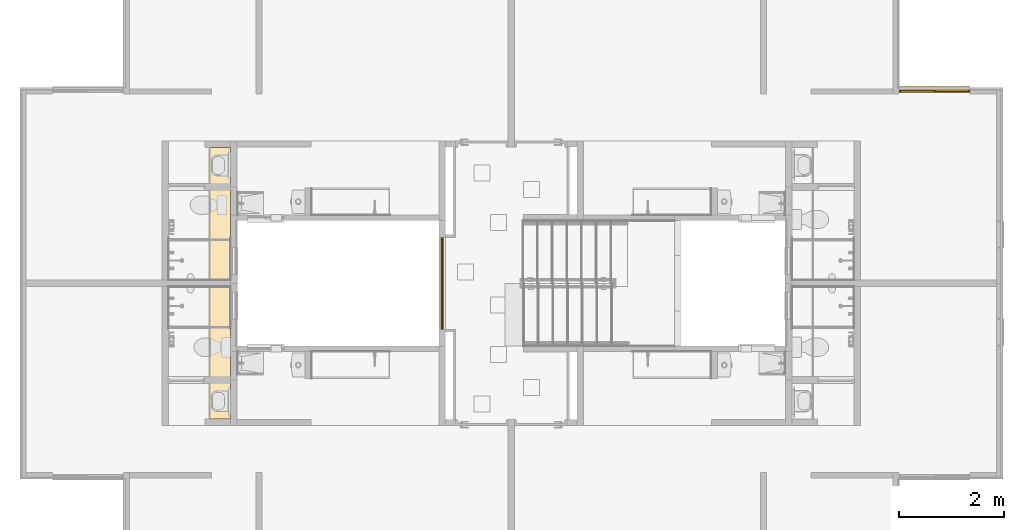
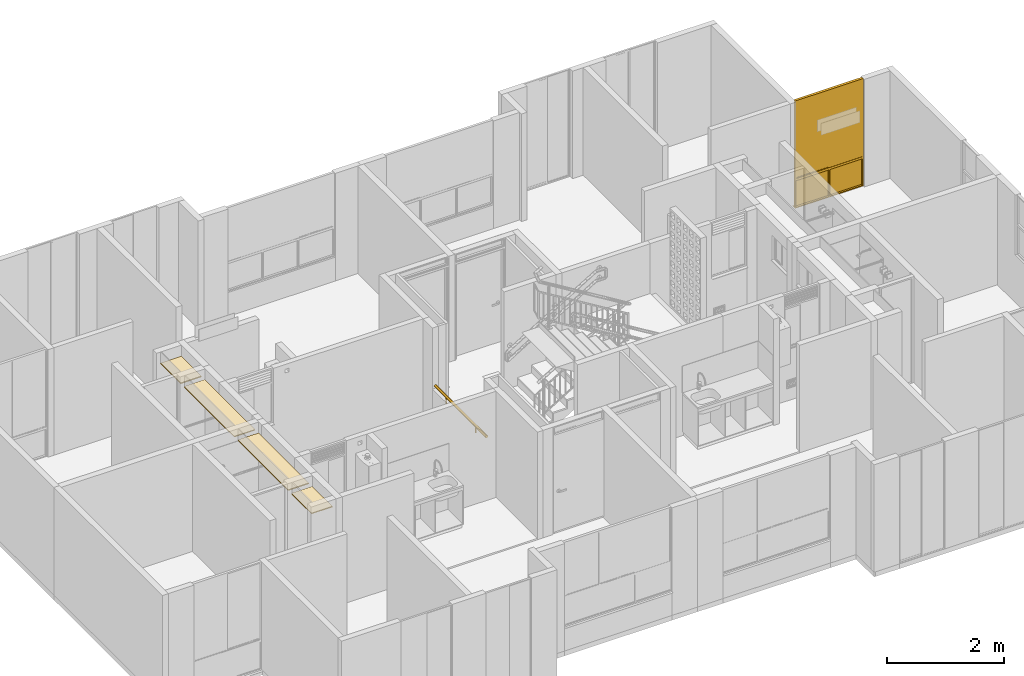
# One storey, part 36 of 48: 2 coverings, 1 railing, 1 window.
"""IFC4 building model written with IfcOpenShell, lengths in metres."""

from ifc_helpers import new_model, entity, si_unit, converted_unit, derived_unit, direction, frame, origin, place, context, subcontext, project, spatial, arc, indexed_curve, outline, extrude, polygons, source, transform, mapped, material, constituent, constituent_set, type_object, type_shapes, element, save


model = new_model("IFC4")

# Units and contexts
model_context = context("Model", 3, precision=1e-05, world=origin(), true_north=direction((6.123031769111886e-17, 1.0)))
body_context = subcontext(model_context, "Body", "Model", "MODEL_VIEW")
ifc_project = project(units=[si_unit("LENGTHUNIT", "METRE"), si_unit("AREAUNIT", "SQUARE_METRE"), si_unit("VOLUMEUNIT", "CUBIC_METRE"), converted_unit("PLANEANGLEUNIT", "DEGREE", entity("IfcRatioMeasure", 0.017453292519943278), si_unit("PLANEANGLEUNIT", "RADIAN"), dimensions=[0, 0, 0, 0, 0, 0, 0]), si_unit("MASSUNIT", "GRAM", prefix="KILO"), derived_unit("MASSDENSITYUNIT", [(si_unit("MASSUNIT", "GRAM", prefix="KILO"), 1), (si_unit("LENGTHUNIT", "METRE"), -3)]), derived_unit("IONCONCENTRATIONUNIT", [(si_unit("MASSUNIT", "GRAM", prefix="KILO"), 1), (si_unit("LENGTHUNIT", "METRE"), -3)]), derived_unit("MOMENTOFINERTIAUNIT", [(si_unit("LENGTHUNIT", "METRE"), 4)]), si_unit("TIMEUNIT", "SECOND"), si_unit("FREQUENCYUNIT", "HERTZ"), si_unit("THERMODYNAMICTEMPERATUREUNIT", "DEGREE_CELSIUS"), derived_unit("THERMALTRANSMITTANCEUNIT", [(si_unit("MASSUNIT", "GRAM", prefix="KILO"), 1), (si_unit("THERMODYNAMICTEMPERATUREUNIT", "KELVIN"), -1), (si_unit("TIMEUNIT", "SECOND"), -3)]), derived_unit("THERMALCONDUCTANCEUNIT", [(si_unit("MASSUNIT", "GRAM", prefix="KILO"), 1), (si_unit("THERMODYNAMICTEMPERATUREUNIT", "KELVIN"), -1), (si_unit("TIMEUNIT", "SECOND"), -3), (si_unit("LENGTHUNIT", "METRE"), 1)]), derived_unit("VOLUMETRICFLOWRATEUNIT", [(si_unit("LENGTHUNIT", "METRE"), 3), (si_unit("TIMEUNIT", "SECOND"), -1)]), derived_unit("MASSFLOWRATEUNIT", [(si_unit("MASSUNIT", "GRAM", prefix="KILO"), 1), (si_unit("TIMEUNIT", "SECOND"), -1)]), derived_unit("ROTATIONALFREQUENCYUNIT", [(si_unit("TIMEUNIT", "SECOND"), -1)]), si_unit("ELECTRICCURRENTUNIT", "AMPERE"), si_unit("ELECTRICVOLTAGEUNIT", "VOLT"), si_unit("POWERUNIT", "WATT"), si_unit("FORCEUNIT", "NEWTON", prefix="KILO"), si_unit("ILLUMINANCEUNIT", "LUX"), si_unit("LUMINOUSFLUXUNIT", "LUMEN"), si_unit("LUMINOUSINTENSITYUNIT", "CANDELA"), derived_unit("USERDEFINED", [(si_unit("MASSUNIT", "GRAM", prefix="KILO"), -1), (si_unit("LENGTHUNIT", "METRE"), -2), (si_unit("TIMEUNIT", "SECOND"), 3), (si_unit("LUMINOUSFLUXUNIT", "LUMEN"), 1)]), derived_unit("USERDEFINED", [(si_unit("MASSUNIT", "GRAM", prefix="KILO"), 1), (si_unit("TIMEUNIT", "SECOND"), -3), (si_unit("LENGTHUNIT", "METRE"), 3), (si_unit("ELECTRICCURRENTUNIT", "AMPERE"), -2)]), derived_unit("SOUNDPOWERUNIT", [(si_unit("MASSUNIT", "GRAM", prefix="KILO"), 1), (si_unit("TIMEUNIT", "SECOND"), -3), (si_unit("LENGTHUNIT", "METRE"), 2)]), derived_unit("SOUNDPRESSUREUNIT", [(si_unit("MASSUNIT", "GRAM", prefix="KILO"), 1), (si_unit("LENGTHUNIT", "METRE"), -1), (si_unit("TIMEUNIT", "SECOND"), -2)]), derived_unit("LINEARVELOCITYUNIT", [(si_unit("LENGTHUNIT", "METRE"), 1), (si_unit("TIMEUNIT", "SECOND"), -1)]), si_unit("PRESSUREUNIT", "PASCAL"), derived_unit("USERDEFINED", [(si_unit("MASSUNIT", "GRAM", prefix="KILO"), 1), (si_unit("LENGTHUNIT", "METRE"), -2), (si_unit("TIMEUNIT", "SECOND"), -2)]), derived_unit("LINEARFORCEUNIT", [(si_unit("MASSUNIT", "GRAM", prefix="KILO"), 1), (si_unit("TIMEUNIT", "SECOND"), -2)]), derived_unit("PLANARFORCEUNIT", [(si_unit("MASSUNIT", "GRAM", prefix="KILO"), 1), (si_unit("LENGTHUNIT", "METRE"), -1), (si_unit("TIMEUNIT", "SECOND"), -2)]), derived_unit("SPECIFICHEATCAPACITYUNIT", [(si_unit("THERMODYNAMICTEMPERATUREUNIT", "KELVIN"), -1), (si_unit("LENGTHUNIT", "METRE"), 2), (si_unit("TIMEUNIT", "SECOND"), -2)]), derived_unit("HEATINGVALUEUNIT", [(si_unit("LENGTHUNIT", "METRE"), 2), (si_unit("TIMEUNIT", "SECOND"), -2)]), derived_unit("VAPORPERMEABILITYUNIT", [(si_unit("LENGTHUNIT", "METRE"), -1), (si_unit("TIMEUNIT", "SECOND"), 1)]), derived_unit("DYNAMICVISCOSITYUNIT", [(si_unit("MASSUNIT", "GRAM", prefix="KILO"), 1), (si_unit("TIMEUNIT", "SECOND"), -1), (si_unit("LENGTHUNIT", "METRE"), -1)]), derived_unit("THERMALEXPANSIONCOEFFICIENTUNIT", [(si_unit("THERMODYNAMICTEMPERATUREUNIT", "KELVIN"), -1)]), derived_unit("MODULUSOFELASTICITYUNIT", [(si_unit("MASSUNIT", "GRAM", prefix="KILO"), 1), (si_unit("LENGTHUNIT", "METRE"), -1), (si_unit("TIMEUNIT", "SECOND"), -2)]), derived_unit("ISOTHERMALMOISTURECAPACITYUNIT", [(si_unit("LENGTHUNIT", "METRE"), 3), (si_unit("MASSUNIT", "GRAM", prefix="KILO"), -1)]), derived_unit("MOISTUREDIFFUSIVITYUNIT", [(si_unit("TIMEUNIT", "SECOND"), -1), (si_unit("LENGTHUNIT", "METRE"), 2)])], contexts=[model_context])

# Site, building, storey
site_placement = place(None, origin())
site = spatial("IfcSite", under=ifc_project, at=site_placement, Name="Default", CompositionType="ELEMENT")
building_placement = place(site_placement, origin())
building = spatial("IfcBuilding", under=site, at=building_placement, CompositionType="ELEMENT")
storey_placement = place(building_placement, frame((0.0, 0.0, 4.700000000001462)))
storey = spatial("IfcBuildingStorey", under=building, at=storey_placement, Name="Nivel 3", CompositionType="ELEMENT", Elevation=4.700000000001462)

# Window
ifc_material_1 = material(Name="Vidrio", Category="Materials")
ifc_constituent_1 = constituent(ifc_material_1, Name="Vidrio", Category="Materials")
ifc_material_2 = material(Name="Aluminio", Category="Materials")
ifc_constituent_2 = constituent(ifc_material_2, Name="Aluminio", Category="Materials")
ifc_material_3 = material(Name="<Unnamed>")
ifc_constituent_3 = constituent(ifc_material_3, Name="<Unnamed>")
ifc_constituent_set_1 = constituent_set(constituents=[ifc_constituent_1, ifc_constituent_2, ifc_constituent_3])
ifc_constituent_4 = constituent(ifc_material_1, Name="Vidrio", Category="Materials")
ifc_constituent_5 = constituent(ifc_material_2, Name="Aluminio", Category="Materials")
ifc_constituent_6 = constituent(ifc_material_3, Name="<Unnamed>")
ifc_constituent_set_2 = constituent_set(constituents=[ifc_constituent_4, ifc_constituent_5, ifc_constituent_6])
window_type = type_object("IfcWindowType", Name="B2020 - Ventana corrediza - Aluminio + Vidrio:B2020 - 1.35m x 2.25m - Ventana corrediza 2C - Aluminio + Vidrio", PartitioningType="NOTDEFINED", PredefinedType="WINDOW", material=ifc_constituent_set_2)
shared_shape = source(origin(), body_context, "Body", "Tessellation", [
    polygons([(1.3299999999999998, 0.044249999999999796, 2.2300000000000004), (0.6749999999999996, 0.04424999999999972, 2.2300000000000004), (0.6749999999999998, 0.04424999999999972, 0.6174999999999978), (1.3299999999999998, 0.044249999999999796, 0.6174999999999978), (1.3299999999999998, 0.04824999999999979, 2.2300000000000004), (0.6749999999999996, 0.04824999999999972, 2.2300000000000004), (0.6749999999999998, 0.04824999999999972, 0.6174999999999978), (1.3299999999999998, 0.04824999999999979, 0.6174999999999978)], [[[1, 2, 3, 4]], [[2, 1, 5, 6]], [[3, 2, 6, 7]], [[1, 4, 8, 5]], [[5, 8, 7, 6]], [[4, 3, 7, 8]]], closed=True),
    polygons([(0.020000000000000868, 0.04424999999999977, 2.2300000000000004), (0.020000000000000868, 0.04424999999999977, 0.6174999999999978), (0.6800000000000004, 0.044249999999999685, 0.6174999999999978), (0.6800000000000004, 0.044249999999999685, 2.2300000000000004), (0.020000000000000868, 0.048249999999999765, 2.2300000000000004), (0.020000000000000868, 0.048249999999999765, 0.6174999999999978), (0.6800000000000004, 0.04824999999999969, 0.6174999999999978), (0.6800000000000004, 0.04824999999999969, 2.2300000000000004)], [[[1, 2, 3, 4]], [[2, 1, 5, 6]], [[4, 3, 7, 8]], [[1, 4, 8, 5]], [[5, 8, 7, 6]], [[3, 2, 6, 7]]], closed=True),
    polygons([(0.6800000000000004, 0.048249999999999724, 0.6174999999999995), (0.6800000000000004, 0.044249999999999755, 0.6174999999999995), (0.6800000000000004, 0.044249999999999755, 2.230000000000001), (0.6800000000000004, 0.048249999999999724, 2.230000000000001), (0.665, 0.044249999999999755, 2.2150000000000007), (0.035000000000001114, 0.04424999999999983, 2.2150000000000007), (0.035000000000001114, 0.04424999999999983, 0.6324999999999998), (0.665, 0.044249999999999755, 0.6324999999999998), (0.020000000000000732, 0.04424999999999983, 0.6174999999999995), (0.020000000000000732, 0.04424999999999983, 2.230000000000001), (0.020000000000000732, 0.0482499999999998, 2.230000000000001), (0.020000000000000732, 0.0482499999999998, 0.6174999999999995), (0.665, 0.048249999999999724, 0.6324999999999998), (0.035000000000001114, 0.04824999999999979, 0.6324999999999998), (0.035000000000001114, 0.04824999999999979, 2.2150000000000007), (0.665, 0.048249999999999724, 2.2150000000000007), (0.665, 0.05299999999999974, 0.6324999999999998), (0.665, 0.05299999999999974, 2.2150000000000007), (0.035000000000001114, 0.05299999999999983, 2.2150000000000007), (0.035000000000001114, 0.05299999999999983, 0.6324999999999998), (0.6850000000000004, 0.05299999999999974, 0.6124999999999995), (0.015000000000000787, 0.05299999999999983, 0.6124999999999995), (0.015000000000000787, 0.05299999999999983, 2.2350000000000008), (0.6850000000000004, 0.05299999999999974, 2.2350000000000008), (0.6850000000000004, 0.03949999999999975, 0.6124999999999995), (0.6850000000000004, 0.03949999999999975, 2.2350000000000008), (0.015000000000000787, 0.03949999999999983, 2.2350000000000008), (0.015000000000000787, 0.03949999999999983, 0.6124999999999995), (0.665, 0.03949999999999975, 0.6324999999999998), (0.035000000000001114, 0.03949999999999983, 0.6324999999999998), (0.035000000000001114, 0.03949999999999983, 2.2150000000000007), (0.665, 0.03949999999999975, 2.2150000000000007)], [[[1, 2, 3, 4]], [[2, 9, 10, 3], [5, 6, 7, 8]], [[4, 3, 10, 11]], [[4, 11, 12, 1], [13, 14, 15, 16]], [[17, 13, 16, 18]], [[18, 16, 15, 19]], [[21, 22, 23, 24], [18, 19, 20, 17]], [[25, 21, 24, 26]], [[26, 24, 23, 27]], [[26, 27, 28, 25], [29, 30, 31, 32]], [[8, 29, 32, 5]], [[5, 32, 31, 6]], [[11, 10, 9, 12]], [[19, 15, 14, 20]], [[27, 23, 22, 28]], [[6, 31, 30, 7]], [[12, 9, 2, 1]], [[20, 14, 13, 17]], [[28, 22, 21, 25]], [[7, 30, 29, 8]]], closed=True),
    polygons([(0.6699999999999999, 0.06674999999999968, 2.229999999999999), (0.6699999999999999, 0.06674999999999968, 0.6174999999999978), (1.3299999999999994, 0.06674999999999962, 0.6174999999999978), (1.3299999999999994, 0.06674999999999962, 2.229999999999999), (0.6699999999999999, 0.07074999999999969, 2.229999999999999), (0.6699999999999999, 0.07074999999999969, 0.6174999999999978), (1.3299999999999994, 0.0707499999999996, 0.6174999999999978), (1.3299999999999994, 0.0707499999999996, 2.229999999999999)], [[[1, 2, 3, 4]], [[2, 1, 5, 6]], [[4, 3, 7, 8]], [[1, 4, 8, 5]], [[5, 8, 7, 6]], [[3, 2, 6, 7]]], closed=True),
    polygons([(1.3299999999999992, 0.07074999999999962, 0.6175), (1.3299999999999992, 0.06674999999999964, 0.6175), (1.3299999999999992, 0.06674999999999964, 2.2299999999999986), (1.3299999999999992, 0.07074999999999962, 2.2299999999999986), (1.3149999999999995, 0.06674999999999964, 2.214999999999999), (0.6850000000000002, 0.06674999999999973, 2.214999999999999), (0.6850000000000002, 0.06674999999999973, 0.6324999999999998), (1.3149999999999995, 0.06674999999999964, 0.6324999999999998), (0.6700000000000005, 0.06674999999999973, 0.6175), (0.6700000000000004, 0.06674999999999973, 2.2299999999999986), (0.6700000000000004, 0.0707499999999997, 2.2299999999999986), (0.6700000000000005, 0.0707499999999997, 0.6175), (1.3149999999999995, 0.07074999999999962, 0.6324999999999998), (0.6850000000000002, 0.0707499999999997, 0.6324999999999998), (0.6850000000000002, 0.0707499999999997, 2.214999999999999), (1.3149999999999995, 0.07074999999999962, 2.214999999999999), (1.3149999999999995, 0.07549999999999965, 0.6324999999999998), (1.3149999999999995, 0.07549999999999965, 2.214999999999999), (0.6850000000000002, 0.07549999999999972, 2.214999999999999), (0.6850000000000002, 0.07549999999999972, 0.6324999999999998), (1.3349999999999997, 0.07549999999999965, 0.6124999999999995), (0.665, 0.07549999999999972, 0.6124999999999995), (0.6649999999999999, 0.07549999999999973, 2.2349999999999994), (1.3349999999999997, 0.07549999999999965, 2.2349999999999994), (1.3349999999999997, 0.06199999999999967, 0.6124999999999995), (1.3349999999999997, 0.06199999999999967, 2.2349999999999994), (0.6649999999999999, 0.06199999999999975, 2.2349999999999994), (0.665, 0.06199999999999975, 0.6124999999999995), (1.3149999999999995, 0.06199999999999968, 0.6324999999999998), (0.6850000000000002, 0.06199999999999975, 0.6324999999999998), (0.6850000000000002, 0.06199999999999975, 2.214999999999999), (1.3149999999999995, 0.06199999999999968, 2.214999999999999)], [[[1, 2, 3, 4]], [[2, 9, 10, 3], [5, 6, 7, 8]], [[4, 3, 10, 11]], [[4, 11, 12, 1], [13, 14, 15, 16]], [[17, 13, 16, 18]], [[18, 16, 15, 19]], [[21, 22, 23, 24], [18, 19, 20, 17]], [[25, 21, 24, 26]], [[26, 24, 23, 27]], [[26, 27, 28, 25], [29, 30, 31, 32]], [[8, 29, 32, 5]], [[5, 32, 31, 6]], [[11, 10, 9, 12]], [[19, 15, 14, 20]], [[27, 23, 22, 28]], [[6, 31, 30, 7]], [[12, 9, 2, 1]], [[20, 14, 13, 17]], [[28, 22, 21, 25]], [[7, 30, 29, 8]]], closed=True),
    polygons([(1.3249999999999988, 0.037499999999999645, 2.224999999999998), (1.3249999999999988, 0.03249999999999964, 2.2249999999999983), (0.025000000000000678, 0.03249999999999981, 2.2249999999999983), (0.025000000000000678, 0.037499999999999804, 2.2249999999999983), (0.025000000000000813, 0.03249999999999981, 0.6200000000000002), (0.02500000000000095, 0.037499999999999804, 0.6200000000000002), (1.3249999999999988, 0.03249999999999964, 0.6200000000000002), (6.767919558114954e-16, 0.03249999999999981, 0.595), (1.349999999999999, 0.03249999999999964, 0.595), (1.349999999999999, 0.03249999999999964, 2.2499999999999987), (4.060751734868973e-16, 0.03249999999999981, 2.2499999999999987), (0.005000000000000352, 0.037499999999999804, 2.2449999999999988), (1.344999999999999, 0.037499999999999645, 2.2449999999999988), (1.344999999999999, 0.037499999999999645, 0.5999999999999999), (0.0050000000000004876, 0.037499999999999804, 0.5999999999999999), (1.3249999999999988, 0.037499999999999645, 0.6200000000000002), (1.344999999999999, 0.054999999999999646, 2.2449999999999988), (0.005000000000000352, 0.05499999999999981, 2.2449999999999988), (0.005000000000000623, 0.05499999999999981, 0.5999999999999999), (0.025000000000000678, 0.054999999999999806, 2.2249999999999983), (1.3249999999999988, 0.05499999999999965, 2.224999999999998), (1.3249999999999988, 0.05499999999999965, 0.6200000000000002), (0.025000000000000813, 0.054999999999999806, 0.6200000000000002), (1.344999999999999, 0.054999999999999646, 0.5999999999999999), (1.3249999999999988, 0.05999999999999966, 2.224999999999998), (0.025000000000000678, 0.05999999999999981, 2.2249999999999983), (0.02500000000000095, 0.05999999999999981, 0.6200000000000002), (0.005000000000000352, 0.05999999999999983, 2.2449999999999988), (1.344999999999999, 0.05999999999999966, 2.2449999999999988), (1.344999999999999, 0.05999999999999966, 0.5999999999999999), (0.0050000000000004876, 0.05999999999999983, 0.5999999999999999), (1.3249999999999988, 0.05999999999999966, 0.6200000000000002), (1.344999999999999, 0.07749999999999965, 2.2449999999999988), (0.005000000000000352, 0.07749999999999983, 2.2449999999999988), (0.005000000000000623, 0.07749999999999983, 0.5999999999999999), (0.025000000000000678, 0.07749999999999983, 2.2249999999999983), (1.3249999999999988, 0.07749999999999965, 2.224999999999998), (1.3249999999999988, 0.07749999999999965, 0.6200000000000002), (0.025000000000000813, 0.07749999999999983, 0.6200000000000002), (1.344999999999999, 0.07749999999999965, 0.5999999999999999), (1.3249999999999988, 0.08249999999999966, 2.224999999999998), (0.025000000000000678, 0.08249999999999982, 2.2249999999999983), (0.02500000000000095, 0.08249999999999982, 0.6200000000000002), (4.060751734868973e-16, 0.08249999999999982, 2.2499999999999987), (1.349999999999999, 0.08249999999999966, 2.2499999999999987), (1.349999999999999, 0.08249999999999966, 0.595), (5.414335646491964e-16, 0.08249999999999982, 0.595), (1.3249999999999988, 0.08249999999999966, 0.6200000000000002)], [[[1, 2, 3, 4]], [[4, 3, 5, 6]], [[8, 9, 10, 11], [3, 2, 7, 5]], [[12, 13, 14, 15], [6, 16, 1, 4]], [[17, 13, 12, 18]], [[18, 12, 15, 19]], [[19, 24, 17, 18], [20, 21, 22, 23]], [[25, 21, 20, 26]], [[26, 20, 23, 27]], [[28, 29, 30, 31], [27, 32, 25, 26]], [[33, 29, 28, 34]], [[34, 28, 31, 35]], [[35, 40, 33, 34], [36, 37, 38, 39]], [[41, 37, 36, 42]], [[42, 36, 39, 43]], [[44, 45, 46, 47], [43, 48, 41, 42]], [[10, 45, 44, 11]], [[11, 44, 47, 8]], [[16, 7, 2, 1]], [[24, 14, 13, 17]], [[32, 22, 21, 25]], [[40, 30, 29, 33]], [[48, 38, 37, 41]], [[9, 46, 45, 10]], [[6, 5, 7, 16]], [[19, 15, 14, 24]], [[27, 23, 22, 32]], [[35, 31, 30, 40]], [[43, 39, 38, 48]], [[8, 47, 46, 9]]], closed=True),
    polygons([(0.01999999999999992, 0.08250000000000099, 0.5749999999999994), (0.020000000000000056, 0.03249999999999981, 0.5749999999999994), (0.020000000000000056, 0.0324999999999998, 0.020000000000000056), (0.01999999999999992, 0.08250000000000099, 0.020000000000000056), (0.6649999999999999, 0.03250000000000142, 0.01999999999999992), (0.6649999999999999, 0.08250000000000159, 0.019999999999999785), (2.707167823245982e-16, 0.03250000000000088, 0.5949999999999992), (2.707167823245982e-16, 0.08249999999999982, 0.5949999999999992), (2.707167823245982e-16, 0.08249999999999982, 2.707167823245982e-16), (2.707167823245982e-16, 0.03250000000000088, 2.707167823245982e-16), (1.3499999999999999, 0.08249999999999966, 2.707167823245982e-16), (1.3499999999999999, 0.03250000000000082, 2.707167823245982e-16), (1.3299999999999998, 0.08250000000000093, 0.020000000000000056), (1.33, 0.03249999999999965, 0.020000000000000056), (1.33, 0.03249999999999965, 0.5749999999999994), (1.3299999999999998, 0.08250000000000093, 0.5749999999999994), (1.3499999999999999, 0.08249999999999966, 0.5949999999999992), (1.3499999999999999, 0.03250000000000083, 0.5949999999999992), (0.6849999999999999, 0.03250000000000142, 0.5749999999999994), (0.6849999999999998, 0.08250000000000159, 0.5749999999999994), (0.6849999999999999, 0.08250000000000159, 0.019999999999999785), (0.6849999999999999, 0.03250000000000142, 0.01999999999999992), (0.6649999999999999, 0.03250000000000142, 0.5749999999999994), (0.6649999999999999, 0.08250000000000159, 0.5749999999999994)], [[[1, 2, 3, 4]], [[4, 3, 5, 6]], [[7, 8, 9, 10]], [[10, 9, 11, 12]], [[13, 14, 15, 16]], [[12, 11, 17, 18]], [[16, 15, 19, 20]], [[8, 7, 18, 17]], [[21, 20, 19, 22]], [[7, 10, 12, 18], [22, 19, 15, 14], [23, 5, 3, 2]], [[24, 6, 5, 23]], [[9, 8, 17, 11], [6, 24, 1, 4], [20, 21, 13, 16]], [[2, 1, 24, 23]], [[14, 13, 21, 22]]], closed=True),
    polygons([(0.6850000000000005, 0.07213901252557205, 0.019999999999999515), (1.3300000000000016, 0.07213901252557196, 0.019999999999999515), (1.3300000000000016, 0.06813901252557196, 0.019999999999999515), (0.6850000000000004, 0.06813901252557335, 0.019999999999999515), (0.6850000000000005, 0.07213901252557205, 0.5849999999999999), (1.3300000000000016, 0.07213901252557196, 0.5849999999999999), (1.3300000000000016, 0.06813901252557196, 0.5849999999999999), (0.6850000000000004, 0.06813901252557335, 0.5849999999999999)], [[[1, 2, 3, 4]], [[5, 6, 2, 1]], [[6, 7, 3, 2]], [[7, 8, 4, 3]], [[8, 5, 1, 4]], [[5, 8, 7, 6]]], closed=True),
    polygons([(0.6649999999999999, 0.07213901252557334, 0.019999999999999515), (0.6649999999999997, 0.06813901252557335, 0.019999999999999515), (0.01999999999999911, 0.06813901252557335, 0.019999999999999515), (0.019999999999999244, 0.07213901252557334, 0.019999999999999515), (0.6649999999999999, 0.07213901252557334, 0.5849999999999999), (0.6649999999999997, 0.06813901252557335, 0.5849999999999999), (0.01999999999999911, 0.06813901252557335, 0.5849999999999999), (0.019999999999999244, 0.07213901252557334, 0.5849999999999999)], [[[1, 2, 3, 4]], [[5, 6, 2, 1]], [[6, 7, 3, 2]], [[7, 8, 4, 3]], [[8, 5, 1, 4]], [[5, 8, 7, 6]]], closed=True),
    polygons([(-9.475087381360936e-16, 0.11499999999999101, -4.060751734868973e-16), (-9.475087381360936e-16, 0.08249999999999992, -4.060751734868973e-16), (-9.475087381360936e-16, 0.08249999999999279, 0.0049999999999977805), (-9.475087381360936e-16, 0.11633974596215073, 0.0049999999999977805), (-8.121503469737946e-16, 0.14348076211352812, -0.010669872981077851), (-8.121503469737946e-16, 0.14098076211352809, -0.015000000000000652), (1.3499999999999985, 0.11499999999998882, -4.060751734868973e-16), (1.3499999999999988, 0.1409807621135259, -0.015000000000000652), (1.3499999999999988, 0.14348076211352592, -0.010669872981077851), (1.3499999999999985, 0.11633974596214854, 0.0049999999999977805), (1.3499999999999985, 0.08249999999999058, 0.0049999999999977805), (1.3499999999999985, 0.08249999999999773, -4.060751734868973e-16)], [[[1, 2, 3, 4, 5, 6]], [[7, 8, 9, 10, 11, 12]], [[2, 1, 7, 12]], [[3, 2, 12, 11]], [[4, 3, 11, 10]], [[5, 4, 10, 9]], [[6, 5, 9, 8]], [[1, 6, 8, 7]]], closed=True),
])
type_shapes(window_type, [shared_shape])
window_placement = place(storey_placement, frame((16.7275000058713, -2.8100000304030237, 0.0)))
element("IfcWindow", 1, at=window_placement, inside=storey, type_object=window_type, material=ifc_constituent_set_1, Name="B2020 - Ventana corrediza - Aluminio + Vidrio:B2020 - 1.35m x 2.25m - Ventana corrediza 2C - Aluminio + Vidrio", ObjectType="B2020 - Ventana corrediza - Aluminio + Vidrio:B2020 - 1.35m x 2.25m - Ventana corrediza 2C - Aluminio + Vidrio", OverallHeight=2.265, OverallWidth=1.3500000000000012, PartitioningType="NOTDEFINED", PredefinedType="WINDOW", context=body_context, shape_type="MappedRepresentation", body=[
    mapped(shared_shape, transform((0.0, 0.0, 0.0), scale=1.0)),
])

# Space
space_1_placement = place(storey_placement, origin())
space_1 = spatial("IfcSpace", under=storey, at=space_1_placement, Name="144", CompositionType="ELEMENT", PredefinedType="SPACE")

# Covering
ifc_material_4 = material(Name="Plasterboard", Category="Materials")
covering_type = type_object("IfcCoveringType", Name="Compound Ceiling:C1070 - 0.02m - Plafón - Drywall", PredefinedType="CEILING")
covering_1_placement = place(space_1_placement, origin())
element("IfcCovering", 2, at=covering_1_placement, inside=space_1, type_object=covering_type, material=ifc_material_4, Name="Compound Ceiling:C1070 - 0.02m - Plafón - Drywall", ObjectType="Compound Ceiling:C1070 - 0.02m - Plafón - Drywall", PredefinedType="CEILING", context=body_context, shape_type="SweptSolid", body=[
    extrude(outline(indexed_curve([(-0.862499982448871, -0.20500000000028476), (0.8624999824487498, -0.20500000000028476), (0.862499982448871, 0.20500000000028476), (-0.8624999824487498, 0.20500000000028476), (-0.862499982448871, -0.20500000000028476)], self_intersect=False)), frame((3.7574999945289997, -5.502500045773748, 2.0), z_axis=(0.0, 0.0, 1.0), x_axis=(0.0, 1.0, 0.0)), (0.0, 0.0, 1.0), 0.019999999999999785),
    extrude(outline(indexed_curve([(-0.3449999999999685, -0.20500000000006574), (0.3449999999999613, -0.20500000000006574), (0.3449999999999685, 0.20500000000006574), (-0.3449999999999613, 0.20500000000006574), (-0.3449999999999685, -0.20500000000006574)], self_intersect=False)), frame((3.7574999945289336, -4.18000006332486, 2.0), z_axis=(0.0, 0.0, 1.0), x_axis=(0.0, 1.0, 0.0)), (0.0, 0.0, 1.0), 0.019999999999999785),
])

# Space
space_2_placement = place(storey_placement, origin())
space_2 = spatial("IfcSpace", under=storey, at=space_2_placement, Name="151", CompositionType="ELEMENT", PredefinedType="SPACE")

# Covering
covering_2_placement = place(space_2_placement, origin())
element("IfcCovering", 3, at=covering_2_placement, inside=space_2, type_object=covering_type, material=ifc_material_4, Name="Compound Ceiling:C1070 - 0.02m - Plafón - Drywall", ObjectType="Compound Ceiling:C1070 - 0.02m - Plafón - Drywall", PredefinedType="CEILING", context=body_context, shape_type="SweptSolid", body=[
    extrude(outline(indexed_curve([(-0.2050000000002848, -0.862499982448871), (0.20500000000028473, -0.862499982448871), (0.2050000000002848, 0.862499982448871), (-0.20500000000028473, 0.862499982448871), (-0.2050000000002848, -0.862499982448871)], self_intersect=False)), frame((3.7574999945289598, -7.347500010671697, 2.0), z_axis=(0.0, 0.0, 1.0), x_axis=(-1.0, 0.0, 0.0)), (0.0, 0.0, 1.0), 0.019999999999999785),
    extrude(outline(indexed_curve([(-0.20500000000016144, -0.3450000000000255), (0.20500000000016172, -0.3450000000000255), (0.20500000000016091, 0.3450000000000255), (-0.20500000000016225, 0.3450000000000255), (-0.20500000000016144, -0.3450000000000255)], self_intersect=False)), frame((3.757499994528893, -8.669999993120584, 2.0), z_axis=(0.0, 0.0, 1.0), x_axis=(-1.0, 0.0, 0.0)), (0.0, 0.0, 1.0), 0.019999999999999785),
])

# Railing
ifc_constituent_7 = constituent(ifc_material_3, Name="<Unnamed>")
ifc_constituent_8 = constituent(ifc_material_2, Name="Aluminio", Category="Materials")
ifc_constituent_set_3 = constituent_set(constituents=[ifc_constituent_7, ifc_constituent_8])
railing_placement = place(storey_placement, origin())
element("IfcRailing", 4, at=railing_placement, inside=storey, material=ifc_constituent_set_3, Name="Railing:C1090 - Baranda - Aluminio", ObjectType="Railing:C1090 - Baranda - Aluminio", PredefinedType="NOTDEFINED", context=body_context, shape_type="SweptSolid", body=[
    extrude(outline(indexed_curve([(0.012500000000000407, 0.0), (0.0, 0.012500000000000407), (-0.012500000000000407, 0.0), (0.0, -0.012500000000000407)], segments=[arc(1, 2, 3), arc(3, 4, 1)], self_intersect=False)), frame((8.005000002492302, -6.925000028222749, 0.8749999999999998)), (0.0, 0.0, 1.0), 0.12499999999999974),
    extrude(outline(indexed_curve([(0.012500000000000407, 0.0), (0.0, 0.012500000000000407), (-0.012500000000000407, 0.0), (0.0, -0.012500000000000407)], segments=[arc(1, 2, 3), arc(3, 4, 1)], self_intersect=False)), frame((8.005000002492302, -5.925000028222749, 0.8749999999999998)), (0.0, 0.0, 1.0), 0.12499999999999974),
    extrude(outline(indexed_curve([(-0.02499999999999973, 0.0), (0.0, -0.02499999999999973), (0.02499999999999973, 0.0), (0.0, 0.02499999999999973)], segments=[arc(1, 2, 3), arc(3, 4, 1)], self_intersect=False)), frame((8.005000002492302, -7.305000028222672, 1.0250000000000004), z_axis=(0.0, 1.0, 0.0), x_axis=(-1.0, 0.0, 0.0)), (0.0, 0.0, 1.0), 1.7599999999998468),
])

save(model, "model.ifc")
